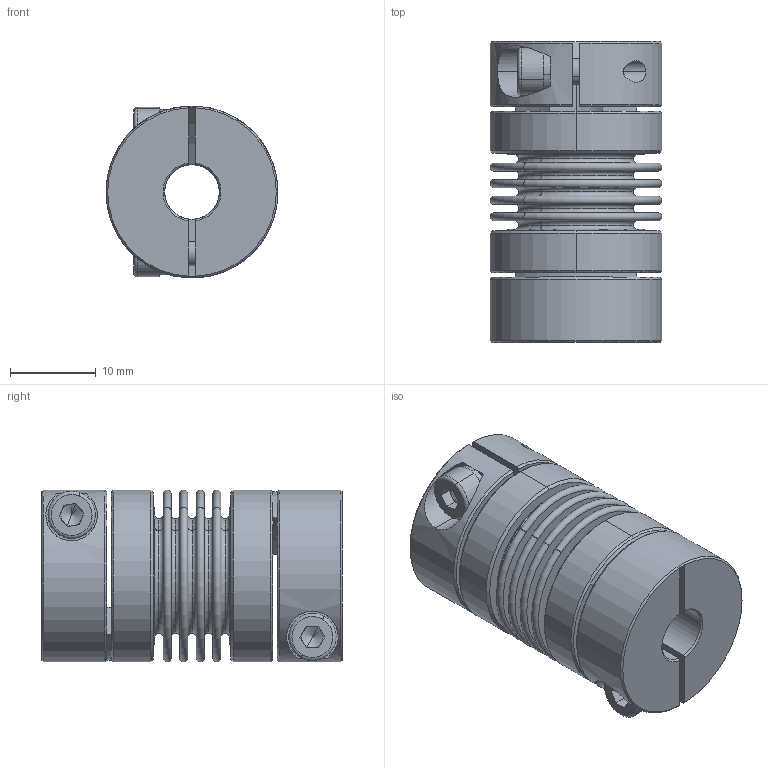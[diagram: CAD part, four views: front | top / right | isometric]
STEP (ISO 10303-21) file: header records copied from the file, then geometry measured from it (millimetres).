
FILE_DESCRIPTION (( 'STEP AP203' ), '1' );
FILE_NAME ('LB-B-D20L34-6.35-9.525.STEP', '2021-11-04T01:42:11', ( '' ), ( '' ), 'SwSTEP 2.0', 'SolidWorks 2018', '' );
FILE_SCHEMA (( 'CONFIG_CONTROL_DESIGN' ));
Length unit declared in the file: millimetre
Products named in the file (2): LB-B-D20L34-6.35-9.525; 零件4^LB-B-D20L34 波纹管联轴器-组装体
Assembly tree (1 placements, depth 2):
  LB-B-D20L34-6.35-9.525
    零件4^LB-B-D20L34 波纹管联轴器-组装体
Bounding box: 20 x 35 x 20 mm (x, y, z)
Volume: 5660.7 mm3; surface area: 9472.5 mm2
Topology: 1 solids, 1 shells, 246 faces, 572 edges, 354 vertices
Faces by surface type: plane 83, torus 68, cylinder 61, cone 34
Entity records: 7500 total; most frequent: CARTESIAN_POINT 1478, DIRECTION 1376, ORIENTED_EDGE 1136, AXIS2_PLACEMENT_3D 604, EDGE_CURVE 568, CIRCLE 354, VERTEX_POINT 354, EDGE_LOOP 288
